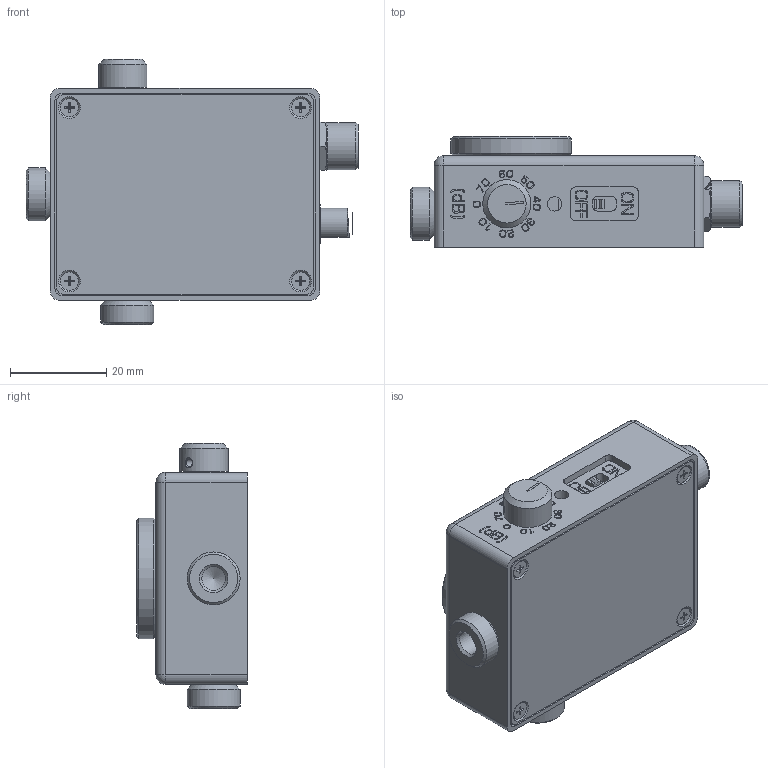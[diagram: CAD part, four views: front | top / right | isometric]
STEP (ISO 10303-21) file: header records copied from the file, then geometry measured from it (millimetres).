
FILE_DESCRIPTION(/* description */ (''),/* implementation_level */ '2;1');
FILE_NAME(/* name */ 'Y:\IvDoronin\- Фотоприемники -\- Модели -\2. Фотоприемники с усилителем\ФРКУ1-18.001 МС Фотоприемник ODA-3A SG.stp',/* time_stamp */ '2022-01-27T19:58:40+03:00',/* author */ ('svlad'),/* organization */ (''),/* preprocessor_version */ 'ST-DEVELOPER v17',/* originating_system */ 'Autodesk Inventor 2019',/* authorisation */ '');
FILE_SCHEMA (('AUTOMOTIVE_DESIGN { 1 0 10303 214 3 1 1 }'));
Products named in the file (1): ФРКУ1-18.001 МС Фотоприемник 
ODA-3A SG
Bounding box: 68.9 x 23 x 55 mm (x, y, z)
Volume: 48529.6 mm3; surface area: 12573.7 mm2
Topology: 1 solids, 7 shells, 1622 faces, 4378 edges, 2901 vertices
Faces by surface type: plane 971, bspline 430, cylinder 117, cone 78, torus 20, sphere 6
Full cylindrical faces by diameter (mm): 0.8 x4, 1.567 x1, 3 x1, 3.8 x4, 4.2 x1, 4.5 x1, 4.917 x2, 5.8 x1, 6 x1, 7 x2, 7.4 x1, 7.5 x1, 8 x1, 8.1 x2, 8.5 x1, 9 x1, 9.7 x1, 10 x1, 10.2 x1, 11 x2, 12 x1, 12.5 x1, 12.918 x1, 15.8 x1, 16 x1, 20 x2, 20.2 x1, 25 x1
Entity records: 62930 total; most frequent: CARTESIAN_POINT 23499, ORIENTED_EDGE 8742, DIRECTION 6147, EDGE_CURVE 4372, VERTEX_POINT 2901, LINE 2585, VECTOR 2585, EDGE_LOOP 1793
